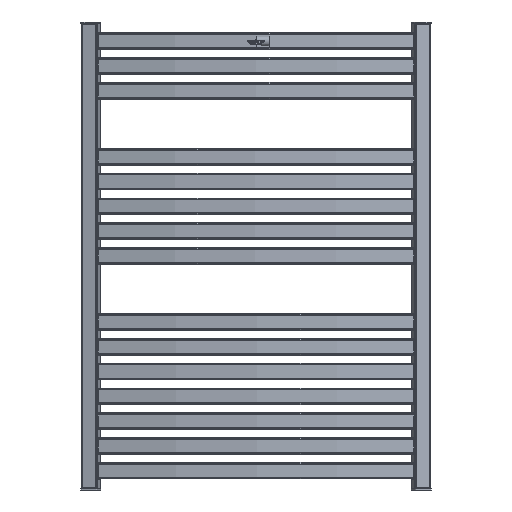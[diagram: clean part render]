
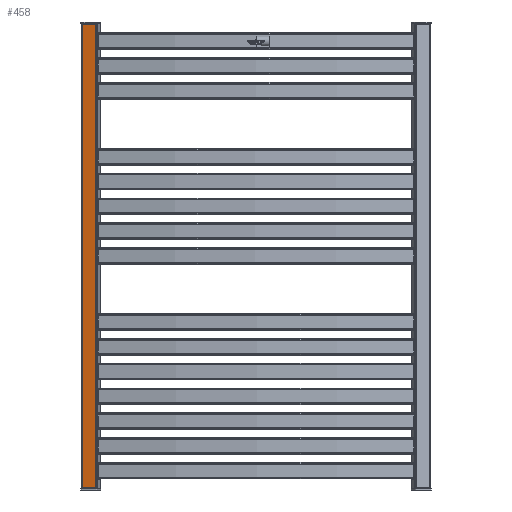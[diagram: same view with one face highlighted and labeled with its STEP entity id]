
A CAD part, front view. The second image highlights one B-rep face of the part: STEP entity #458.
In plain terms, the highlighted planar face has unit normal (-0.243, -0.97, 0) as drawn and (1, 0, 0) by its records, which use the part's own axes.
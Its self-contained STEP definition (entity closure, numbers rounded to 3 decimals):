
#458 = ADVANCED_FACE( '', ( #1007 ), #1008, .T. );
#1007 = FACE_OUTER_BOUND( '', #1673, .T. );
#1008 = PLANE( '', #1674 );
#1673 = EDGE_LOOP( '', ( #3008, #3009, #3010, #3011 ) );
#1674 = AXIS2_PLACEMENT_3D( '', #3012, #3013, #3014 );
#3008 = ORIENTED_EDGE( '', *, *, #4301, .T. );
#3009 = ORIENTED_EDGE( '', *, *, #4112, .T. );
#3010 = ORIENTED_EDGE( '', *, *, #4056, .F. );
#3011 = ORIENTED_EDGE( '', *, *, #3796, .T. );
#3012 = CARTESIAN_POINT( '', ( 15., 846., -15. ) );
#3013 = DIRECTION( '', ( 1., 0., 0. ) );
#3014 = DIRECTION( '', ( 0., 0., -1. ) );
#3796 = EDGE_CURVE( '', #4514, #4511, #4515, .F. );
#4056 = EDGE_CURVE( '', #4514, #4961, #4962, .T. );
#4112 = EDGE_CURVE( '', #5044, #4961, #5047, .T. );
#4301 = EDGE_CURVE( '', #4511, #5044, #5321, .T. );
#4511 = VERTEX_POINT( '', #5573 );
#4514 = VERTEX_POINT( '', #5576 );
#4515 = LINE( '', #5577, #5578 );
#4961 = VERTEX_POINT( '', #6159 );
#4962 = LINE( '', #6160, #6161 );
#5044 = VERTEX_POINT( '', #6275 );
#5047 = LINE( '', #6279, #6280 );
#5321 = LINE( '', #6637, #6638 );
#5573 = CARTESIAN_POINT( '', ( 15., 846., -12. ) );
#5576 = CARTESIAN_POINT( '', ( 15., 0., -12. ) );
#5577 = CARTESIAN_POINT( '', ( 15., 846., -12. ) );
#5578 = VECTOR( '', #6927, 1000. );
#6159 = CARTESIAN_POINT( '', ( 15., 0., 12. ) );
#6160 = CARTESIAN_POINT( '', ( 15., 0., -15. ) );
#6161 = VECTOR( '', #7276, 1000. );
#6275 = CARTESIAN_POINT( '', ( 15., 846., 12. ) );
#6279 = CARTESIAN_POINT( '', ( 15., 846., 12. ) );
#6280 = VECTOR( '', #7337, 1000. );
#6637 = CARTESIAN_POINT( '', ( 15., 846., -15. ) );
#6638 = VECTOR( '', #7625, 1000. );
#6927 = DIRECTION( '', ( 0., -1., 0. ) );
#7276 = DIRECTION( '', ( 0., 0., 1. ) );
#7337 = DIRECTION( '', ( 0., -1., 0. ) );
#7625 = DIRECTION( '', ( 0., 0., 1. ) );
